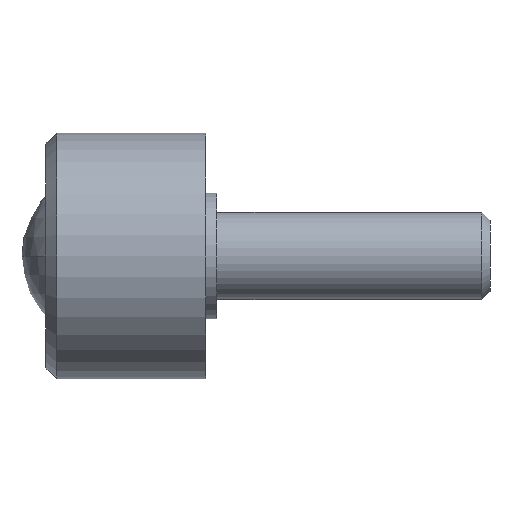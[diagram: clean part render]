
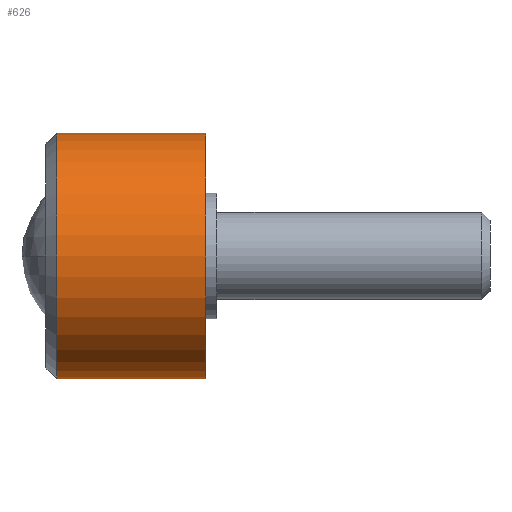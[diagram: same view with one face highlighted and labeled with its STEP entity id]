
A CAD part, left-side view. The second image highlights one B-rep face of the part: STEP entity #626.
In plain terms, the highlighted cylindrical face has radius 22.5 mm (diameter 45 mm), a partial arc.
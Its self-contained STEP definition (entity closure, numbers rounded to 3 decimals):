
#25 = DIRECTION ( 'NONE',  ( 0., -1., 0. ) ) ;
#51 = AXIS2_PLACEMENT_3D ( 'NONE', #499, #607, #370 ) ;
#81 = AXIS2_PLACEMENT_3D ( 'NONE', #196, #25, #317 ) ;
#84 = FACE_OUTER_BOUND ( 'NONE', #440, .T. ) ;
#134 = CYLINDRICAL_SURFACE ( 'NONE', #347, 22.5 ) ;
#155 = ORIENTED_EDGE ( 'NONE', *, *, #560, .T. ) ;
#170 = EDGE_CURVE ( 'NONE', #732, #672, #645, .T. ) ;
#191 = DIRECTION ( 'NONE',  ( 0., -1., 0. ) ) ;
#195 = DIRECTION ( 'NONE',  ( 0., 0., -1. ) ) ;
#196 = CARTESIAN_POINT ( 'NONE',  ( 0., 27.3, 0. ) ) ;
#204 = CARTESIAN_POINT ( 'NONE',  ( 0., 0., 22.5 ) ) ;
#234 = CARTESIAN_POINT ( 'NONE',  ( 0., 27.3, -22.5 ) ) ;
#240 = EDGE_CURVE ( 'NONE', #622, #500, #375, .T. ) ;
#262 = CARTESIAN_POINT ( 'NONE',  ( 0., 0., 0. ) ) ;
#303 = LINE ( 'NONE', #432, #516 ) ;
#317 = DIRECTION ( 'NONE',  ( 0., 0., 1. ) ) ;
#347 = AXIS2_PLACEMENT_3D ( 'NONE', #262, #191, #195 ) ;
#370 = DIRECTION ( 'NONE',  ( 0., 0., -1. ) ) ;
#375 = CIRCLE ( 'NONE', #81, 22.5 ) ;
#426 = VECTOR ( 'NONE', #743, 1000. ) ;
#432 = CARTESIAN_POINT ( 'NONE',  ( 0., 0., -22.5 ) ) ;
#436 = CARTESIAN_POINT ( 'NONE',  ( 0., 0., -22.5 ) ) ;
#440 = EDGE_LOOP ( 'NONE', ( #625, #748, #155, #781 ) ) ;
#455 = LINE ( 'NONE', #204, #426 ) ;
#499 = CARTESIAN_POINT ( 'NONE',  ( 0., 0., 0. ) ) ;
#500 = VERTEX_POINT ( 'NONE', #234 ) ;
#516 = VECTOR ( 'NONE', #677, 1000. ) ;
#560 = EDGE_CURVE ( 'NONE', #500, #672, #303, .T. ) ;
#607 = DIRECTION ( 'NONE',  ( 0., -1., 0. ) ) ;
#622 = VERTEX_POINT ( 'NONE', #737 ) ;
#625 = ORIENTED_EDGE ( 'NONE', *, *, #640, .F. ) ;
#626 = ADVANCED_FACE ( 'NONE', ( #84 ), #134, .T. ) ;
#640 = EDGE_CURVE ( 'NONE', #622, #732, #455, .T. ) ;
#645 = CIRCLE ( 'NONE', #51, 22.5 ) ;
#672 = VERTEX_POINT ( 'NONE', #436 ) ;
#677 = DIRECTION ( 'NONE',  ( 0., -1., 0. ) ) ;
#732 = VERTEX_POINT ( 'NONE', #750 ) ;
#737 = CARTESIAN_POINT ( 'NONE',  ( 0., 27.3, 22.5 ) ) ;
#743 = DIRECTION ( 'NONE',  ( 0., -1., 0. ) ) ;
#748 = ORIENTED_EDGE ( 'NONE', *, *, #240, .T. ) ;
#750 = CARTESIAN_POINT ( 'NONE',  ( 0., 0., 22.5 ) ) ;
#781 = ORIENTED_EDGE ( 'NONE', *, *, #170, .F. ) ;
